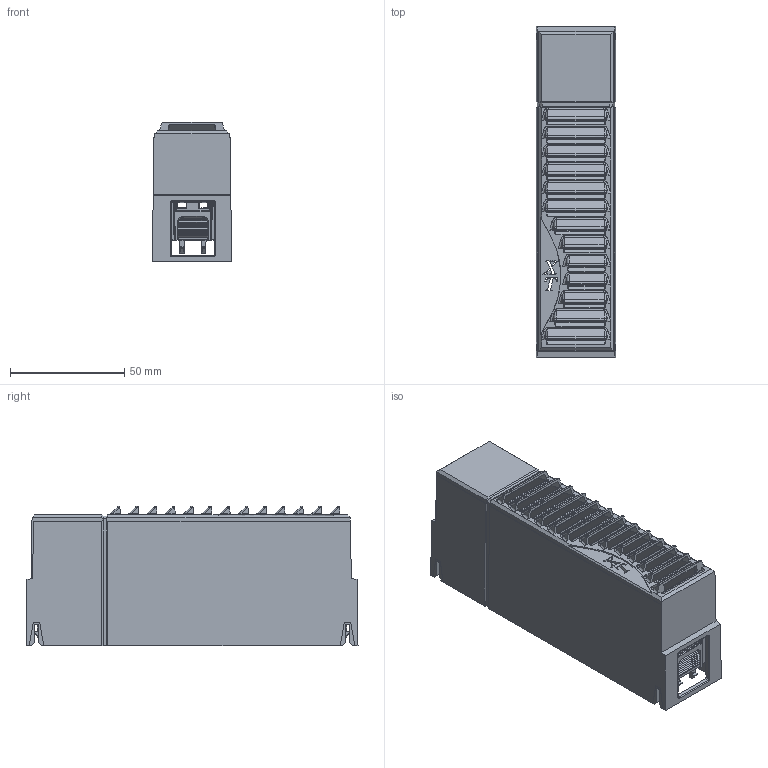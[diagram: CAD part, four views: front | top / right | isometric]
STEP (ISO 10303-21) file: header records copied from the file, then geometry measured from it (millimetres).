
FILE_DESCRIPTION((''),'2;1');
FILE_NAME('10002127796','2016-02-09T',('wbf'),('Rockwell Automation'),'PRO/ENGINEER BY PARAMETRIC TECHNOLOGY CORPORATION, 2012480','PRO/ENGINEER BY PARAMETRIC TECHNOLOGY CORPORATION, 2012480','');
FILE_SCHEMA(('CONFIG_CONTROL_DESIGN'));
Products named in the file (1): 10002127796
Bounding box: 34.7 x 145.19 x 61.09 mm (x, y, z)
Volume: 48529.3 mm3; surface area: 52739.9 mm2
Topology: 1 solids, 1 shells, 2043 faces, 5419 edges, 3396 vertices
Faces by surface type: plane 1235, cylinder 527, bspline 241, sphere 36, cone 4
Entity records: 74010 total; most frequent: CARTESIAN_POINT 25866, ORIENTED_EDGE 10832, DIRECTION 8643, EDGE_CURVE 5416, VECTOR 3957, LINE 3957, VERTEX_POINT 3390, AXIS2_PLACEMENT_3D 2343
